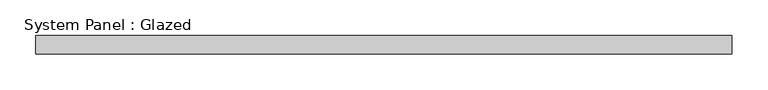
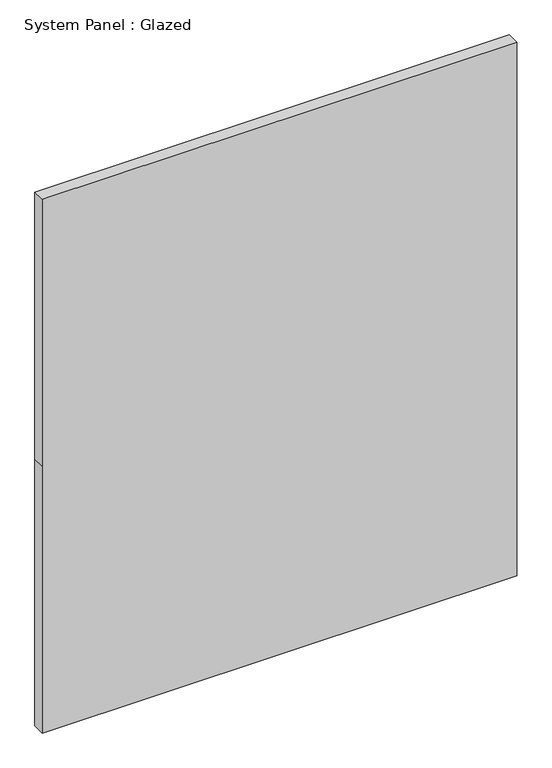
"""IFC4 building model written with IfcOpenShell, lengths in millimetres: plate geometry, System Panel : Glazed."""

from ifc_helpers import new_model, si_unit, frame, origin, place, context, project, spatial, polyline, outline, extrude, source, transform, mapped, element, save


def system_panel_glazed_5449a29c(model_context):
    return source(origin(), model_context, "Body", "SweptSolid", [
        extrude(outline(polyline([(0.0, -485.775), (0.0, 485.775), (577.85, 485.775), (1155.7, 485.775), (1155.7, -485.775), (577.85, -485.775), (0.0, -485.775)])), frame((0.0, -44.45, 0.0), z_axis=(0.0, 1.0, 0.0), x_axis=(0.0, 0.0, 1.0)), (0.0, 0.0, 1.0), 25.4),
    ])


if __name__ == "__main__":
    model = new_model("IFC4")
    model_context = context("Model", 3, world=origin())
    ifc_project = project(units=[si_unit("LENGTHUNIT", "METRE", prefix="MILLI")], contexts=[model_context])
    site = spatial("IfcSite", under=ifc_project)
    building = spatial("IfcBuilding", under=site)
    placement = place(None, origin())
    system_panel_glazed_shape = system_panel_glazed_5449a29c(model_context)
    element("IfcPlate", 1, ObjectType="System Panel : Glazed", at=placement, inside=building, context=model_context, shape_type="MappedRepresentation", body=[
        mapped(system_panel_glazed_shape, transform((0.0, 0.0, 0.0), x_axis=(1.0, 0.0, 0.0), y_axis=(0.0, 1.0, 0.0), z_axis=(0.0, 0.0, 1.0))),
    ])
    save(model, "model.ifc")
